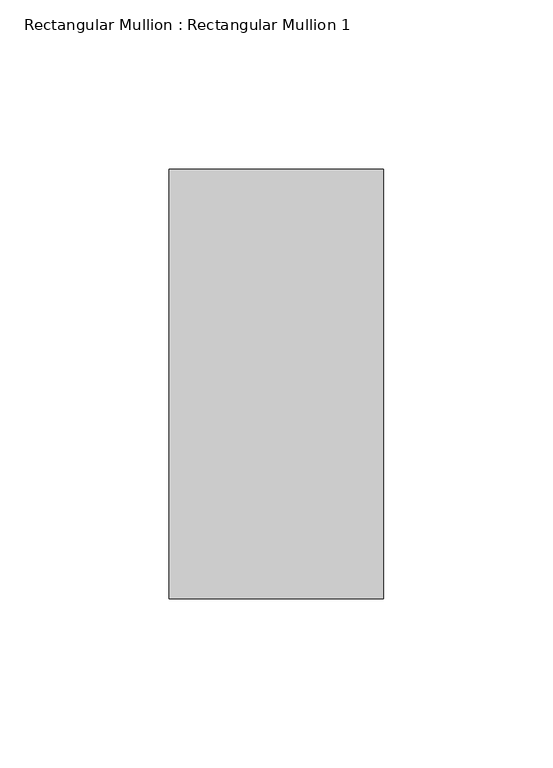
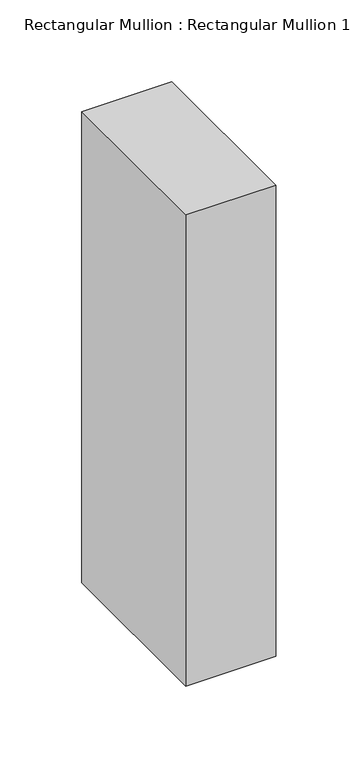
"""IFC4 building model written with IfcOpenShell, lengths in millimetres: member geometry, Rectangular Mullion : Rectangular Mullion 1."""

import ifcopenshell
import ifcopenshell.guid

model = None  # the IFC model being written
_history = None  # IfcOwnerHistory: only IFC2X3 demands one
_inside = {}  # id of a spatial element -> (the spatial element, [elements in it])
_under = {}  # id of a project, library or spatial element -> (it, [spatial elements below it])
_declared = {}  # id of a project -> (the project, [libraries it declares])
_typed = {}  # id of a type object -> (the type object, [elements of that type])
_made_of = {}  # id of a material, layer set ... -> (it, [elements and type objects made of it])


def new_model(schema):
    """Start an empty IFC model of exactly this schema.

    Asked for "IFC4X3", IfcOpenShell would pick the latest addendum, in which some entities
    have other attributes; the version numbers below select the first issue.
    IFC2X3 requires an IfcOwnerHistory on every rooted entity: one is made here for all.
    """
    global model, _history
    if schema == "IFC4X3":
        model = ifcopenshell.file(schema_version=(4, 3, 0, 0))
    else:
        model = ifcopenshell.file(schema=schema)
    _inside.clear()
    _under.clear()
    _declared.clear()
    _typed.clear()
    _made_of.clear()
    _history = None
    if model.schema == "IFC2X3":
        org = make("IfcOrganization", Name="unknown")
        user = make(
            "IfcPersonAndOrganization",
            ThePerson=make("IfcPerson", FamilyName="unknown"),
            TheOrganization=org,
        )
        app = make(
            "IfcApplication",
            ApplicationDeveloper=org,
            Version="unknown",
            ApplicationFullName="unknown",
            ApplicationIdentifier="unknown",
        )
        _history = make(
            "IfcOwnerHistory",
            OwningUser=user,
            OwningApplication=app,
            ChangeAction="ADDED",
            CreationDate=0,
        )
    return model


def make(cls, **values):
    """One entity of the class cls with the attributes given. An attribute that is None is left unset."""
    return model.create_entity(
        cls, **{name: value for name, value in values.items() if value is not None}
    )


def rooted(cls, **values):
    """An entity with a GlobalId (a new one), such as an element, a storey or a relation."""
    return make(cls, GlobalId=ifcopenshell.guid.new(), OwnerHistory=_history, **values)


def si_unit(unit_type, name, prefix=None):
    """IfcSIUnit, for example si_unit("LENGTHUNIT", "METRE", prefix="MILLI")."""
    return make("IfcSIUnit", UnitType=unit_type, Prefix=prefix, Name=name)


def assignment(units):
    """IfcUnitAssignment: the units of a project."""
    return None if units is None else make("IfcUnitAssignment", Units=units)


def point(xyz):
    """IfcCartesianPoint."""
    return None if xyz is None else make("IfcCartesianPoint", Coordinates=xyz)


def direction(xyz):
    """IfcDirection."""
    return None if xyz is None else make("IfcDirection", DirectionRatios=xyz)


def frame(location, z_axis=None, x_axis=None):
    """IfcAxis2Placement3D, a coordinate frame: its origin and axes. An axis left out is left unset."""
    return make(
        "IfcAxis2Placement3D",
        Location=point(location),
        Axis=direction(z_axis),
        RefDirection=direction(x_axis),
    )


def origin():
    """The frame at (0, 0, 0) with its axes left unset."""
    return frame((0.0, 0.0, 0.0))


def place(relative_to, where):
    """IfcLocalPlacement: puts the frame where relative to a parent placement (None: the world)."""
    return make(
        "IfcLocalPlacement", PlacementRelTo=relative_to, RelativePlacement=where
    )


def context(
    kind, dimensions, precision=None, world=None, true_north=None, identifier=None
):
    """IfcGeometricRepresentationContext, for example the 3D "Model" context."""
    return make(
        "IfcGeometricRepresentationContext",
        ContextIdentifier=identifier,
        ContextType=kind,
        CoordinateSpaceDimension=dimensions,
        Precision=precision,
        WorldCoordinateSystem=world,
        TrueNorth=true_north,
    )


def project(units=None, contexts=None):
    """IfcProject with its units and contexts."""
    return rooted(
        "IfcProject",
        Name="project",
        RepresentationContexts=contexts,
        UnitsInContext=assignment(units),
    )


def spatial(cls, under=None, at=None, **own):
    """A site, building, storey or space (cls), placed at a placement, below another one or the project."""
    s = rooted(cls, ObjectPlacement=at, **own)
    if under is not None:
        _under.setdefault(under.id(), (under, []))[1].append(s)
    return s


def polyline(points):
    """IfcPolyline through the points."""
    return make("IfcPolyline", Points=[point(p) for p in points])


def outline(outer, holes=None, kind="AREA"):
    """IfcArbitraryClosedProfileDef: a profile drawn as a closed curve; with holes, ...WithVoids."""
    if holes is None:
        return make("IfcArbitraryClosedProfileDef", ProfileType=kind, OuterCurve=outer)
    return make(
        "IfcArbitraryProfileDefWithVoids",
        ProfileType=kind,
        OuterCurve=outer,
        InnerCurves=holes,
    )


def extrude(swept, where, along, depth):
    """IfcExtrudedAreaSolid: the profile swept, set in the frame where, extruded along a direction by depth."""
    return make(
        "IfcExtrudedAreaSolid",
        SweptArea=swept,
        Position=where,
        ExtrudedDirection=direction(along),
        Depth=depth,
    )


def shape(context_of_items, identifier, shape_type, items):
    """IfcShapeRepresentation: the items that make up one representation, for example the "Body"."""
    return make(
        "IfcShapeRepresentation",
        ContextOfItems=context_of_items,
        RepresentationIdentifier=identifier,
        RepresentationType=shape_type,
        Items=items,
    )


def source(mapping_origin, context_of_items, identifier, shape_type, items):
    """IfcRepresentationMap: a shape defined once, which mapped items show again and again."""
    return make(
        "IfcRepresentationMap",
        MappingOrigin=mapping_origin,
        MappedRepresentation=shape(context_of_items, identifier, shape_type, items),
    )


def transform(
    local_origin,
    x_axis=None,
    y_axis=None,
    z_axis=None,
    scale=None,
    scale2=None,
    scale3=None,
    uniform=True,
):
    """IfcCartesianTransformationOperator3D, or its non-uniform kind. x_axis, y_axis, z_axis: its Axis1, 2, 3."""
    if uniform:
        return make(
            "IfcCartesianTransformationOperator3D",
            Axis1=direction(x_axis),
            Axis2=direction(y_axis),
            LocalOrigin=point(local_origin),
            Scale=scale,
            Axis3=direction(z_axis),
        )
    return make(
        "IfcCartesianTransformationOperator3DnonUniform",
        Axis1=direction(x_axis),
        Axis2=direction(y_axis),
        LocalOrigin=point(local_origin),
        Scale=scale,
        Axis3=direction(z_axis),
        Scale2=scale2,
        Scale3=scale3,
    )


def mapped(mapping_source, mapping_target):
    """IfcMappedItem: shows the shape of a source again, moved by a transform."""
    return make(
        "IfcMappedItem", MappingSource=mapping_source, MappingTarget=mapping_target
    )


def made_of(thing, what):
    """Note that an element or type object is made of a material, layer set ...; save() writes the relation."""
    if what is not None:
        _made_of.setdefault(what.id(), (what, []))[1].append(thing)
    return thing


def element(
    cls,
    number,
    at=None,
    inside=None,
    cuts=None,
    type_object=None,
    material=None,
    context=None,
    identifier="Body",
    shape_type=None,
    held_by="IfcProductDefinitionShape",
    body=None,
    shapes=None,
    **own,
):
    """One element of the class cls, such as IfcWall. Its Tag is "e" and its number.

    at: its placement. inside: the storey or other place that contains it. cuts: it is an
    opening in that element (IfcRelVoidsElement). A single representation is given by context,
    identifier, shape_type and body (its items); several are given by shapes. held_by: the class
    of the entity that holds the representations. save() writes the other relations.
    """
    e = rooted(cls, Tag="e%d" % number, ObjectPlacement=at, **own)
    if body is not None:
        shapes = [shape(context, identifier, shape_type, body)]
    if shapes is not None:
        e.Representation = make(held_by, Representations=shapes)
    if inside is not None:
        _inside.setdefault(inside.id(), (inside, []))[1].append(e)
    if cuts is not None:
        rooted(
            "IfcRelVoidsElement", RelatingBuildingElement=cuts, RelatedOpeningElement=e
        )
    if type_object is not None:
        _typed.setdefault(type_object.id(), (type_object, []))[1].append(e)
    return made_of(e, material)


def aggregate(whole, parts):
    """IfcRelAggregates: a whole, such as a stair, and the parts it consists of."""
    return rooted("IfcRelAggregates", RelatingObject=whole, RelatedObjects=parts)


def save(model, path):
    """Write the relations noted so far, then the file.

    IfcRelAggregates (storeys below a building ...), IfcRelContainedInSpatialStructure (elements
    in a storey), IfcRelDefinesByType, IfcRelAssociatesMaterial and IfcRelDeclares: one each for
    every whole, place, type object, material and project.
    """
    for whole, parts in _under.values():
        aggregate(whole, parts)
    for where, things in _inside.values():
        rooted(
            "IfcRelContainedInSpatialStructure",
            RelatedElements=things,
            RelatingStructure=where,
        )
    for kind, things in _typed.values():
        rooted("IfcRelDefinesByType", RelatedObjects=things, RelatingType=kind)
    for what, things in _made_of.values():
        rooted("IfcRelAssociatesMaterial", RelatedObjects=things, RelatingMaterial=what)
    for by, libraries in _declared.values():
        rooted("IfcRelDeclares", RelatingContext=by, RelatedDefinitions=libraries)
    model.write(path)


def rectangular_mullion_rectangular_mullion_1_857a2d2f(model_context):
    return source(origin(), model_context, "Body", "SweptSolid", [
        extrude(outline(polyline([(0.0, 63.5), (0.0, -63.5), (-63.5, -63.5), (-63.5, 63.5), (0.0, 63.5)])), frame((0.0, 0.0, -351.5783668), z_axis=(0.0, 0.0, 1.0), x_axis=(1.0, 0.0, 0.0)), (0.0, 0.0, 1.0), 351.5783668),
    ])


if __name__ == "__main__":
    model = new_model("IFC4")
    model_context = context("Model", 3, world=origin())
    ifc_project = project(units=[si_unit("LENGTHUNIT", "METRE", prefix="MILLI")], contexts=[model_context])
    site = spatial("IfcSite", under=ifc_project)
    building = spatial("IfcBuilding", under=site)
    placement = place(None, origin())
    rectangular_mullion_rectangular_mullion_1_shape = rectangular_mullion_rectangular_mullion_1_857a2d2f(model_context)
    element("IfcMember", 1, ObjectType="Rectangular Mullion : Rectangular Mullion 1", at=placement, inside=building, context=model_context, shape_type="MappedRepresentation", body=[
        mapped(rectangular_mullion_rectangular_mullion_1_shape, transform((0.0, 0.0, 0.0), x_axis=(1.0, 0.0, 0.0), y_axis=(0.0, 1.0, 0.0), z_axis=(0.0, 0.0, 1.0))),
    ])
    save(model, "model.ifc")
